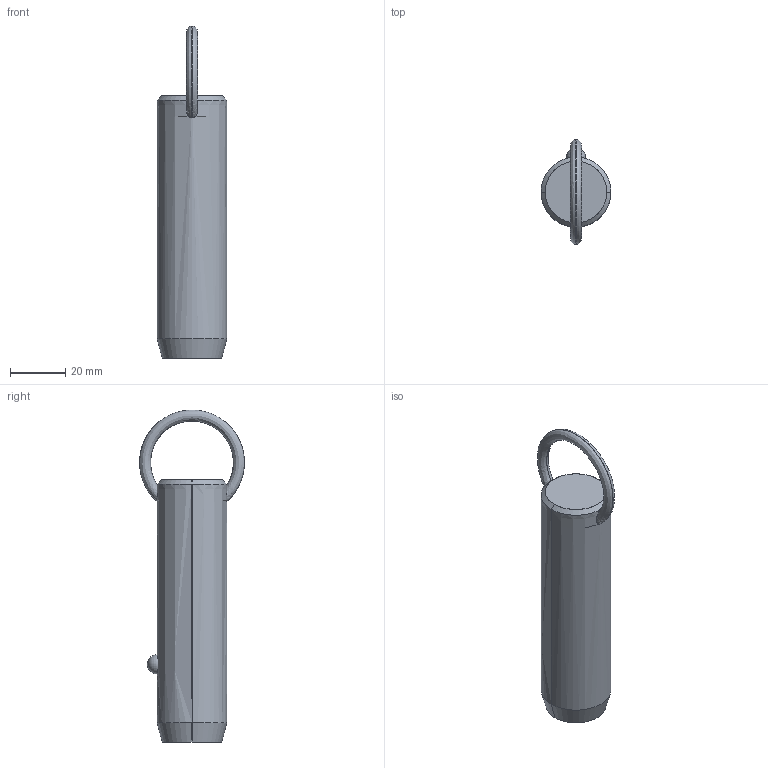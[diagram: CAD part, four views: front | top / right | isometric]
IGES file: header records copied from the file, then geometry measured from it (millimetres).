
Start section: SolidWorks IGES file using analytic representation for surfaces
Global section: file name: C:\Users\liam_\OneDrive\Documents\WORK\Work for WixRoyd\Job Files\J-00019 - Matt Davis CAD Checking\04. CAD Drawings\automotion20190605\P1250.2_v2\P1250.2_v2_20190729_IGES\P1250.100-200.igs; native system: SolidWorks 2017; preprocessor: SolidWorks 2017; author: liam_; date: 190730.173449; units: millimetre
Bounding box: 25.4 x 38.08 x 120.6 mm (x, y, z)
Surface area: 9369.9 mm2 (no closed solid volume)
Topology: 0 solids, 0 shells, 12 faces, 298 edges, 296 vertices
Faces by surface type: revolution 8, bspline 4
